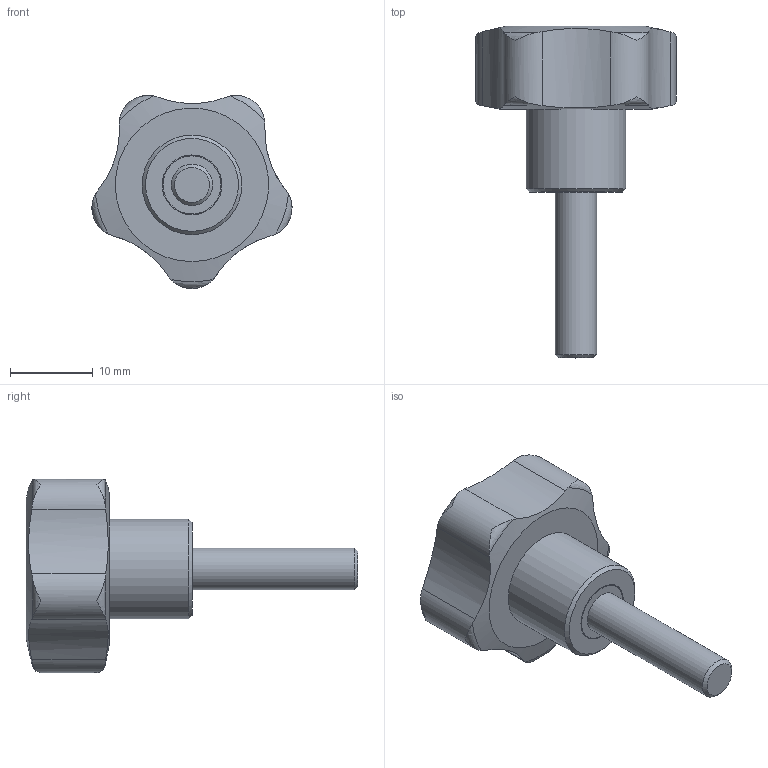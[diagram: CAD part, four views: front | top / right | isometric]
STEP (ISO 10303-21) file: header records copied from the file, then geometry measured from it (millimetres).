
FILE_DESCRIPTION( ( 'STEP AP203' ), '1' );
FILE_NAME( 'C:/Temp/Ganter_Step_05_03_2020/data/2_2/gn_5337_4/gn_5337_4_s/Star knob GN 5337.4-25-M5-20.stp', '2020-03-05T12:09:39', ( 'License CC BY-ND 4.0' ), ( 'CADENAS' ), ' ', 'PARTsolutions', ' ' );
FILE_SCHEMA( ( 'CONFIG_CONTROL_DESIGN' ) );
Length unit declared in the file: millimetre
Products named in the file (1): _Star knob GN 5337.4-25-M5-20
Bounding box: 24.11 x 40 x 23.28 mm (x, y, z)
Volume: 5207.7 mm3; surface area: 2138.8 mm2
Topology: 1 solids, 1 shells, 34 faces, 95 edges, 66 vertices
Faces by surface type: cylinder 14, torus 10, plane 5, cone 3, bspline 1, sphere 1
Full cylindrical faces by diameter (mm): 5 x1, 7 x1, 7.2 x1, 12 x1
Entity records: 1417 total; most frequent: CARTESIAN_POINT 629, ORIENTED_EDGE 164, DIRECTION 122, EDGE_CURVE 82, VERTEX_POINT 63, AXIS2_PLACEMENT_3D 56, B_SPLINE_CURVE_WITH_KNOTS 50, EDGE_LOOP 46
